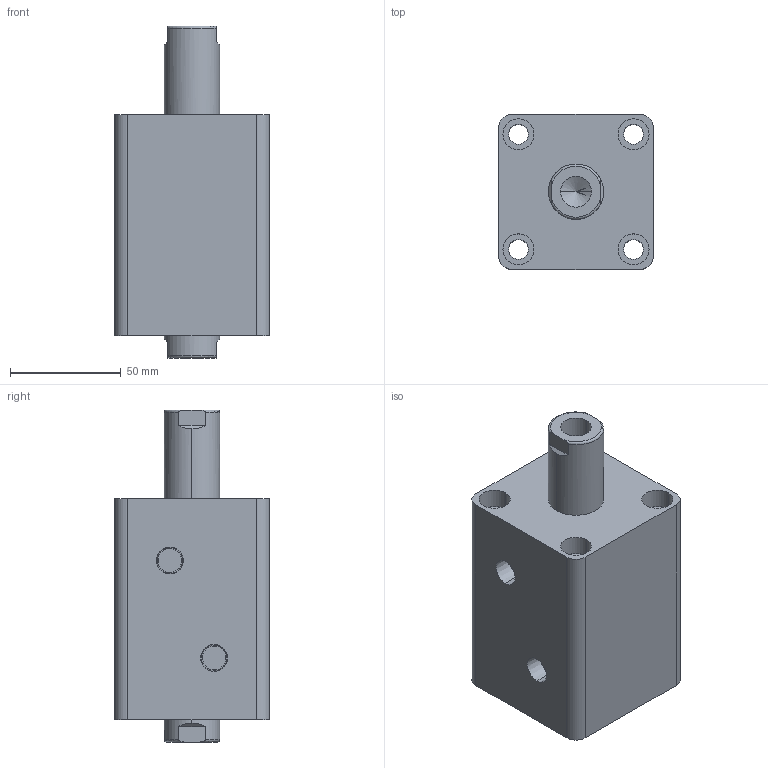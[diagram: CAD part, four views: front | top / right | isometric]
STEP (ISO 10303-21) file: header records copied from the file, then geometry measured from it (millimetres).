
FILE_DESCRIPTION (( 'STEP AP203' ), '1' );
FILE_NAME ('HTB-SW40-30N.STEP', '2019-10-07T09:06:43', ( '微软用户' ), ( '微软中国' ), 'SwSTEP 2.0', 'SolidWorks 2012', '' );
FILE_SCHEMA (( 'CONFIG_CONTROL_DESIGN' ));
Length unit declared in the file: millimetre
Products named in the file (3): HTB-SW40-30N; HTB-SW40-30N活塞杆; HTB-SW40-30掛极
Assembly tree (2 placements, depth 2):
  HTB-SW40-30N
    HTB-SW40-30掛极
    HTB-SW40-30N活塞杆
Bounding box: 70 x 70 x 150 mm (x, y, z)
Volume: 448146.3 mm3; surface area: 76456.4 mm2
Topology: 2 solids, 2 shells, 100 faces, 228 edges, 146 vertices
Faces by surface type: cylinder 48, plane 32, torus 12, cone 8
Entity records: 3237 total; most frequent: CARTESIAN_POINT 595, DIRECTION 542, ORIENTED_EDGE 448, AXIS2_PLACEMENT_3D 229, EDGE_CURVE 224, VERTEX_POINT 146, EDGE_LOOP 128, CIRCLE 124
